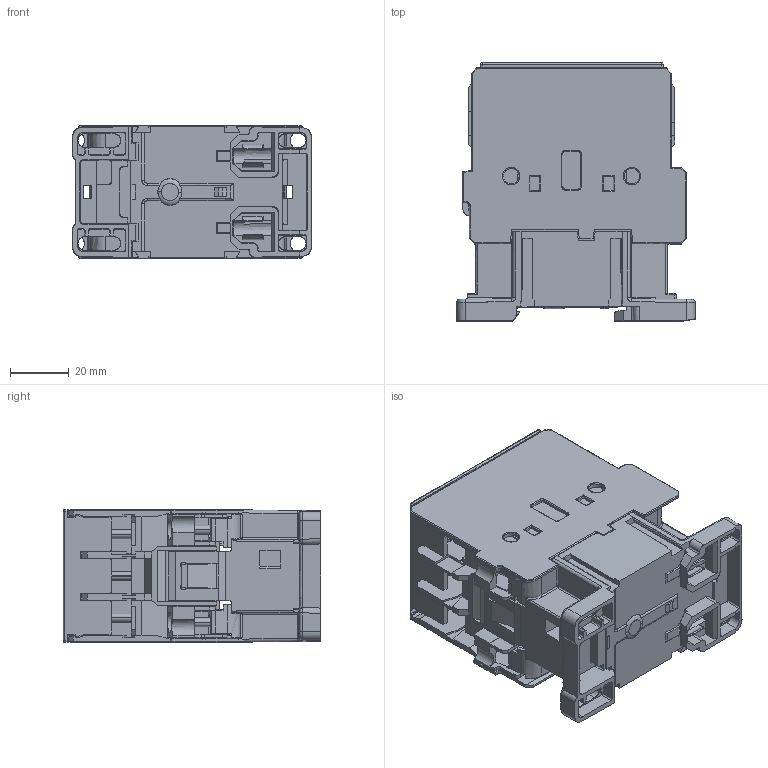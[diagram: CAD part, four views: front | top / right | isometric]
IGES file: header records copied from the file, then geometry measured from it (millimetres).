
Start section: SolidWorks IGES file using analytic representation for surfaces
Global section: file name: \\Brjgs100\dfsweg\GROUPS\BR_SC_JGS_WA_TECNICO\ENG\Usuarios\Rodrigob\conversão\contatores\Produto\CWL32\CWL32.IGS; native system: SolidWorks 2016; preprocessor: SolidWorks 2016; author: rodrigob; date: 180614.052806; units: millimetre
Bounding box: 81 x 87.7 x 45 mm (x, y, z)
Surface area: 77640.3 mm2 (no closed solid volume)
Topology: 0 solids, 0 shells, 2588 faces, 21153 edges, 21146 vertices
Faces by surface type: bspline 1941, revolution 647
